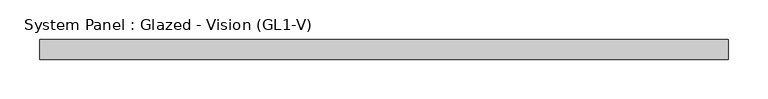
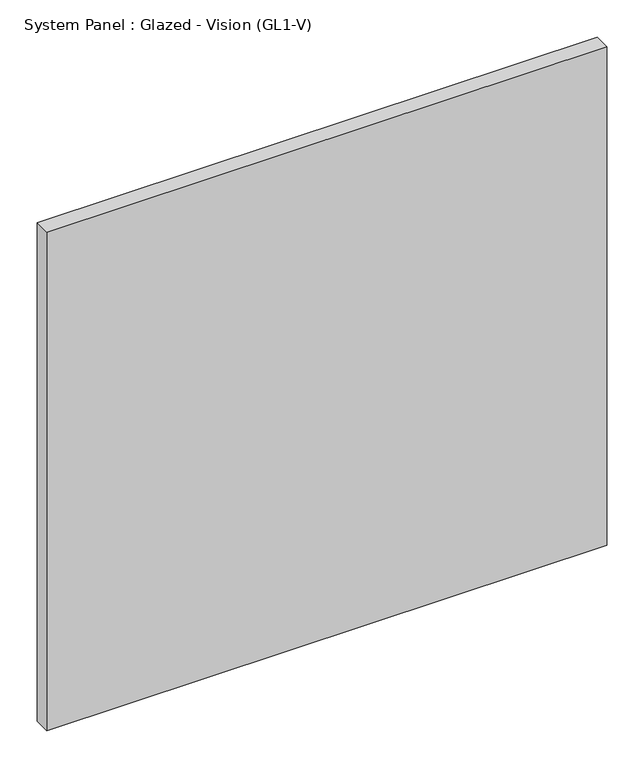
"""IFC4 building model written with IfcOpenShell, lengths in millimetres: plate geometry, System Panel : Glazed - Vision (GL1-V)."""

from ifc_helpers import new_model, si_unit, origin, origin_with_axes, place, context, project, spatial, polyline, outline, extrude, source, transform, mapped, element, save


def system_panel_glazed_vision_gl1_v_22b3f494(model_context):
    return source(origin(), model_context, "Body", "SweptSolid", [
        extrude(outline(polyline([(434.9702038, -25.4), (-434.9702038, -25.4), (-434.9702038, 0.0), (434.9702038, 0.0), (434.9702038, -25.4)])), origin_with_axes(), (0.0, 0.0, 1.0), 819.15),
    ])


if __name__ == "__main__":
    model = new_model("IFC4")
    model_context = context("Model", 3, world=origin())
    ifc_project = project(units=[si_unit("LENGTHUNIT", "METRE", prefix="MILLI")], contexts=[model_context])
    site = spatial("IfcSite", under=ifc_project)
    building = spatial("IfcBuilding", under=site)
    placement = place(None, origin())
    system_panel_glazed_vision_gl1_v_shape = system_panel_glazed_vision_gl1_v_22b3f494(model_context)
    element("IfcPlate", 1, ObjectType="System Panel : Glazed - Vision (GL1-V)", at=placement, inside=building, context=model_context, shape_type="MappedRepresentation", body=[
        mapped(system_panel_glazed_vision_gl1_v_shape, transform((0.0, 0.0, 0.0), x_axis=(1.0, 0.0, 0.0), y_axis=(0.0, 1.0, 0.0), z_axis=(0.0, 0.0, 1.0))),
    ])
    save(model, "model.ifc")
